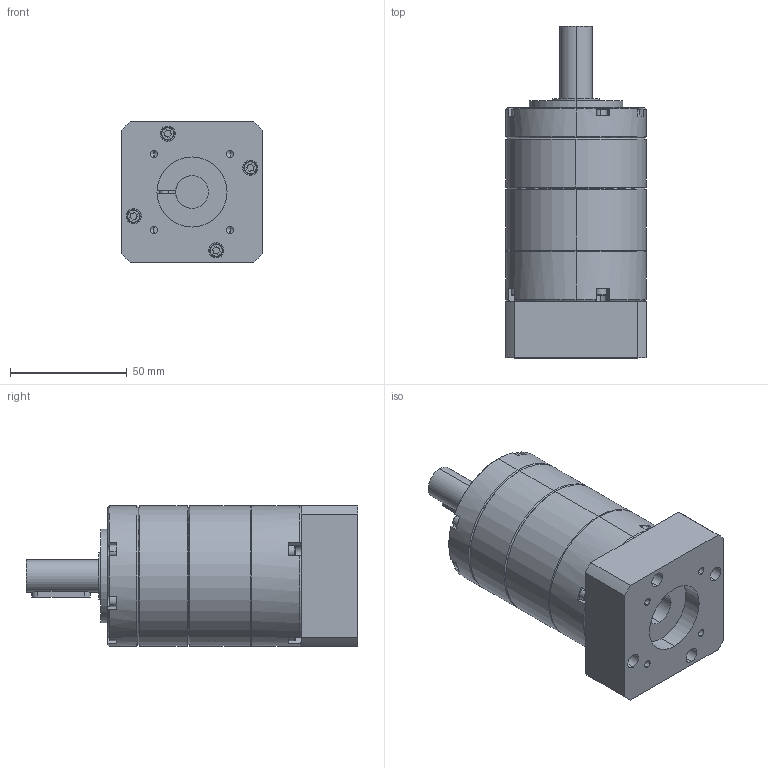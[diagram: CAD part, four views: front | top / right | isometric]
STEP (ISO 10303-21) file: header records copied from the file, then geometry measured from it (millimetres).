
FILE_DESCRIPTION (( 'STEP AP203' ), '1' );
FILE_NAME ('1G2XD.030060.112.STEP', '2018-08-15T03:10:44', ( '' ), ( '' ), 'SwSTEP 2.0', 'SolidWorks 2010', '' );
FILE_SCHEMA (( 'CONFIG_CONTROL_DESIGN' ));
Length unit declared in the file: millimetre
Products named in the file (11): PAN23-BP(雙段模型)_1.常規?14; M4､ｺ､ｻｨ､ﾁｳｵｷ[ｼﾒｲﾕ､ﾆ]12~70mm_M4xP0.7x15L; PNS60-B(模型縮短)_5.成品; M3､ｺ､ｻｨ､ﾁｳｵｷ[ｼﾒｲﾕ､ﾆ]06~60mm_55mm; 1G2XD.030060.112; 雙圓鍵5x25; PNS60-(模型縮短)_4.成品; 234BN22236_3.成品; PNS60-EB-1(3~7.9比模型縮短)_4-3.4.5.7.9比; M3､ｺ､ｻｨ､ﾁｳｵｷ[ｼﾒｲﾕ､ﾆ]06~60mm_16mm; M3､ｺ､ｻｨ､ﾁｳｵｷ[ｼﾒｲﾕ､ﾆ]06~60mm_18mm
Assembly tree (22 placements, depth 2):
  1G2XD.030060.112
    M3､ｺ､ｻｨ､ﾁｳｵｷ[ｼﾒｲﾕ､ﾆ]06~60mm_16mm  x7
    M3､ｺ､ｻｨ､ﾁｳｵｷ[ｼﾒｲﾕ､ﾆ]06~60mm_55mm  x4
    PNS60-EB-1(3~7.9比模型縮短)_4-3.4.5.7.9比
    M3､ｺ､ｻｨ､ﾁｳｵｷ[ｼﾒｲﾕ､ﾆ]06~60mm_18mm  x4
    PNS60-(模型縮短)_4.成品
    PNS60-B(模型縮短)_5.成品
    PAN23-BP(雙段模型)_1.常規?14
    M4､ｺ､ｻｨ､ﾁｳｵｷ[ｼﾒｲﾕ､ﾆ]12~70mm_M4xP0.7x15L
    234BN22236_3.成品
    雙圓鍵5x25
Bounding box: 60 x 141.9 x 60 mm (x, y, z)
Volume: 301455.1 mm3; surface area: 73318.7 mm2
Topology: 22 solids, 22 shells, 693 faces, 1644 edges, 1013 vertices
Faces by surface type: plane 332, cylinder 222, cone 122, torus 17
Entity records: 14445 total; most frequent: CARTESIAN_POINT 2743, DIRECTION 2300, ORIENTED_EDGE 2036, EDGE_CURVE 1018, AXIS2_PLACEMENT_3D 916, VERTEX_POINT 653, EDGE_LOOP 489, CIRCLE 486
